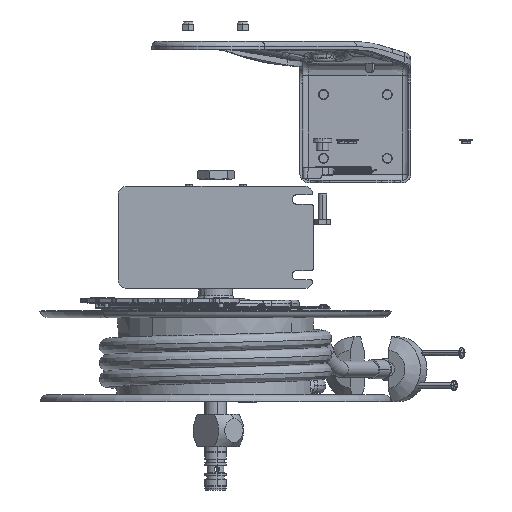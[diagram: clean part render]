
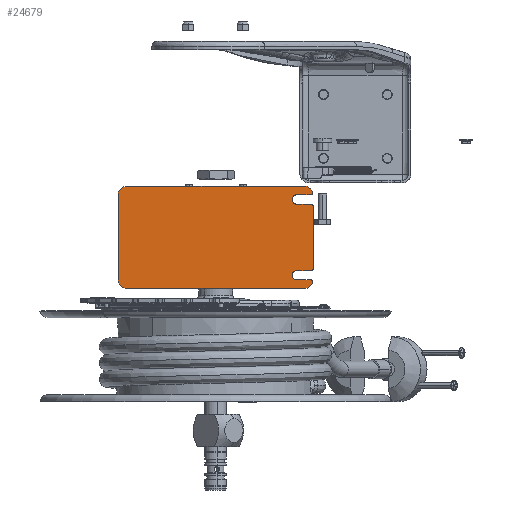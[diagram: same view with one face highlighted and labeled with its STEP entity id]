
A CAD part, front view. The second image highlights one B-rep face of the part: STEP entity #24679.
In plain terms, the highlighted planar face has unit normal (0, -1, 0).
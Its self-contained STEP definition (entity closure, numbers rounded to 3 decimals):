
#23792=CARTESIAN_POINT('',(4.411,-9.613,
3.65));
#23793=DIRECTION('',(0.,-1.,0.));
#23794=DIRECTION('',(0.968,0.,-0.25));
#23795=AXIS2_PLACEMENT_3D('',#23792,#23793,#23794);
#23797=CARTESIAN_POINT('',(4.106,-9.613,
3.729));
#23798=DIRECTION('',(0.,-1.,0.));
#23799=DIRECTION('',(0.,0.,-1.));
#23800=AXIS2_PLACEMENT_3D('',#23797,#23798,#23799);
#23802=DIRECTION('',(-1.,0.,0.));
#23803=VECTOR('',#23802,8.213);
#23804=CARTESIAN_POINT('',(4.106,-9.613,
3.335));
#23805=LINE('',#23804,#23803);
#23806=CARTESIAN_POINT('',(-4.106,-9.613,
3.729));
#23807=DIRECTION('',(0.,-1.,0.));
#23808=DIRECTION('',(-1.,0.,0.));
#23809=AXIS2_PLACEMENT_3D('',#23806,#23807,#23808);
#23811=DIRECTION('',(0.,0.,1.));
#23812=VECTOR('',#23811,3.933);
#23813=CARTESIAN_POINT('',(-4.5,-9.613,3.729));
#23814=LINE('',#23813,#23812);
#23815=CARTESIAN_POINT('',(-4.106,-9.613,
7.662));
#23816=DIRECTION('',(0.,-1.,0.));
#23817=DIRECTION('',(0.,0.,1.));
#23818=AXIS2_PLACEMENT_3D('',#23815,#23816,#23817);
#23820=DIRECTION('',(1.,0.,0.));
#23821=VECTOR('',#23820,8.213);
#23822=CARTESIAN_POINT('',(-4.106,-9.613,
8.055));
#23823=LINE('',#23822,#23821);
#23824=CARTESIAN_POINT('',(4.106,-9.613,
7.662));
#23825=DIRECTION('',(0.,-1.,0.));
#23826=DIRECTION('',(0.968,0.,0.25));
#23827=AXIS2_PLACEMENT_3D('',#23824,#23825,#23826);
#23829=CARTESIAN_POINT('',(4.411,-9.613,
7.74));
#23830=DIRECTION('',(0.,-1.,0.));
#23831=DIRECTION('',(0.,0.,-1.));
#23832=AXIS2_PLACEMENT_3D('',#23829,#23830,#23831);
#23834=DIRECTION('',(-1.,0.,0.));
#23835=VECTOR('',#23834,0.663);
#23836=CARTESIAN_POINT('',(4.411,-9.613,
7.662));
#23837=LINE('',#23836,#23835);
#23838=CARTESIAN_POINT('',(3.748,-9.613,
7.445));
#23839=DIRECTION('',(0.,1.,0.));
#23840=DIRECTION('',(0.,0.,-1.));
#23841=AXIS2_PLACEMENT_3D('',#23838,#23839,#23840);
#23843=DIRECTION('',(-1.,0.,0.));
#23844=VECTOR('',#23843,0.673);
#23845=CARTESIAN_POINT('',(4.421,-9.613,
7.228));
#23846=LINE('',#23845,#23844);
#23847=CARTESIAN_POINT('',(4.421,-9.613,
7.15));
#23848=DIRECTION('',(0.,-1.,0.));
#23849=DIRECTION('',(1.,0.,0.));
#23850=AXIS2_PLACEMENT_3D('',#23847,#23848,#23849);
#23852=DIRECTION('',(0.,0.,-1.));
#23853=VECTOR('',#23852,2.909);
#23854=CARTESIAN_POINT('',(4.5,-9.613,7.15));
#23855=LINE('',#23854,#23853);
#23856=CARTESIAN_POINT('',(4.421,-9.613,
4.241));
#23857=DIRECTION('',(0.,-1.,0.));
#23858=DIRECTION('',(0.001,0.,-1.));
#23859=AXIS2_PLACEMENT_3D('',#23856,#23857,#23858);
#23861=DIRECTION('',(-1.,0.,-0.001));
#23862=VECTOR('',#23861,0.673);
#23863=CARTESIAN_POINT('',(4.421,-9.613,
4.162));
#23864=LINE('',#23863,#23862);
#23865=CARTESIAN_POINT('',(3.748,-9.613,
3.945));
#23866=DIRECTION('',(0.,1.,0.));
#23867=DIRECTION('',(0.,0.,-1.));
#23868=AXIS2_PLACEMENT_3D('',#23865,#23866,#23867);
#23870=DIRECTION('',(-1.,0.,0.));
#23871=VECTOR('',#23870,0.663);
#23872=CARTESIAN_POINT('',(4.411,-9.613,
3.729));
#23873=LINE('',#23872,#23871);
#24400=CARTESIAN_POINT('',(4.106,-9.613,
3.335));
#24402=VERTEX_POINT('',#24400);
#24404=CARTESIAN_POINT('',(4.106,-9.613,
8.055));
#24406=VERTEX_POINT('',#24404);
#24412=CARTESIAN_POINT('',(-4.106,-9.613,
8.055));
#24413=VERTEX_POINT('',#24412);
#24414=CARTESIAN_POINT('',(-4.5,-9.613,7.662));
#24415=VERTEX_POINT('',#24414);
#24420=CARTESIAN_POINT('',(-4.5,-9.613,3.729));
#24421=VERTEX_POINT('',#24420);
#24422=CARTESIAN_POINT('',(-4.106,-9.613,
3.335));
#24423=VERTEX_POINT('',#24422);
#24552=CARTESIAN_POINT('',(3.748,-9.613,
7.228));
#24553=CARTESIAN_POINT('',(3.748,-9.613,
7.662));
#24554=VERTEX_POINT('',#24552);
#24555=VERTEX_POINT('',#24553);
#24556=CARTESIAN_POINT('',(3.748,-9.613,
3.729));
#24557=CARTESIAN_POINT('',(3.748,-9.613,
4.161));
#24558=VERTEX_POINT('',#24556);
#24559=VERTEX_POINT('',#24557);
#24564=CARTESIAN_POINT('',(4.487,-9.613,
3.63));
#24565=VERTEX_POINT('',#24564);
#24566=CARTESIAN_POINT('',(4.411,-9.613,
3.729));
#24567=VERTEX_POINT('',#24566);
#24572=CARTESIAN_POINT('',(4.421,-9.613,
4.162));
#24573=VERTEX_POINT('',#24572);
#24574=CARTESIAN_POINT('',(4.5,-9.613,4.241));
#24575=VERTEX_POINT('',#24574);
#24580=CARTESIAN_POINT('',(4.5,-9.613,7.15));
#24581=VERTEX_POINT('',#24580);
#24582=CARTESIAN_POINT('',(4.421,-9.613,
7.228));
#24583=VERTEX_POINT('',#24582);
#24588=CARTESIAN_POINT('',(4.411,-9.613,
7.662));
#24589=VERTEX_POINT('',#24588);
#24590=CARTESIAN_POINT('',(4.487,-9.613,
7.76));
#24591=VERTEX_POINT('',#24590);
#24636=CARTESIAN_POINT('',(0.,-9.613,5.695));
#24637=DIRECTION('',(0.,1.,0.));
#24638=DIRECTION('',(1.,0.,0.));
#24639=AXIS2_PLACEMENT_3D('',#24636,#24637,#24638);
#24640=PLANE('',#24639);
#24642=ORIENTED_EDGE('',*,*,#24641,.F.);
#24644=ORIENTED_EDGE('',*,*,#24643,.F.);
#24646=ORIENTED_EDGE('',*,*,#24645,.T.);
#24648=ORIENTED_EDGE('',*,*,#24647,.F.);
#24650=ORIENTED_EDGE('',*,*,#24649,.T.);
#24652=ORIENTED_EDGE('',*,*,#24651,.F.);
#24654=ORIENTED_EDGE('',*,*,#24653,.T.);
#24656=ORIENTED_EDGE('',*,*,#24655,.F.);
#24658=ORIENTED_EDGE('',*,*,#24657,.F.);
#24660=ORIENTED_EDGE('',*,*,#24659,.T.);
#24662=ORIENTED_EDGE('',*,*,#24661,.F.);
#24664=ORIENTED_EDGE('',*,*,#24663,.F.);
#24666=ORIENTED_EDGE('',*,*,#24665,.F.);
#24668=ORIENTED_EDGE('',*,*,#24667,.T.);
#24670=ORIENTED_EDGE('',*,*,#24669,.F.);
#24672=ORIENTED_EDGE('',*,*,#24671,.T.);
#24674=ORIENTED_EDGE('',*,*,#24673,.F.);
#24676=ORIENTED_EDGE('',*,*,#24675,.F.);
#24677=EDGE_LOOP('',(#24642,#24644,#24646,#24648,#24650,#24652,#24654,#24656,
#24658,#24660,#24662,#24664,#24666,#24668,#24670,#24672,#24674,#24676));
#24678=FACE_OUTER_BOUND('',#24677,.F.);
#24679=ADVANCED_FACE('',(#24678),#24640,.F.);
#23796=CIRCLE('',#23795,0.079);
#23801=CIRCLE('',#23800,0.394);
#23810=CIRCLE('',#23809,0.394);
#23819=CIRCLE('',#23818,0.394);
#23828=CIRCLE('',#23827,0.394);
#23833=CIRCLE('',#23832,0.079);
#23842=CIRCLE('',#23841,0.217);
#23851=CIRCLE('',#23850,0.079);
#23860=CIRCLE('',#23859,0.079);
#23869=CIRCLE('',#23868,0.216);
#24641=EDGE_CURVE('',#24565,#24567,#23796,.T.);
#24643=EDGE_CURVE('',#24402,#24565,#23801,.T.);
#24645=EDGE_CURVE('',#24402,#24423,#23805,.T.);
#24647=EDGE_CURVE('',#24421,#24423,#23810,.T.);
#24649=EDGE_CURVE('',#24421,#24415,#23814,.T.);
#24651=EDGE_CURVE('',#24413,#24415,#23819,.T.);
#24653=EDGE_CURVE('',#24413,#24406,#23823,.T.);
#24655=EDGE_CURVE('',#24591,#24406,#23828,.T.);
#24657=EDGE_CURVE('',#24589,#24591,#23833,.T.);
#24659=EDGE_CURVE('',#24589,#24555,#23837,.T.);
#24661=EDGE_CURVE('',#24554,#24555,#23842,.T.);
#24663=EDGE_CURVE('',#24583,#24554,#23846,.T.);
#24665=EDGE_CURVE('',#24581,#24583,#23851,.T.);
#24667=EDGE_CURVE('',#24581,#24575,#23855,.T.);
#24669=EDGE_CURVE('',#24573,#24575,#23860,.T.);
#24671=EDGE_CURVE('',#24573,#24559,#23864,.T.);
#24673=EDGE_CURVE('',#24558,#24559,#23869,.T.);
#24675=EDGE_CURVE('',#24567,#24558,#23873,.T.);
